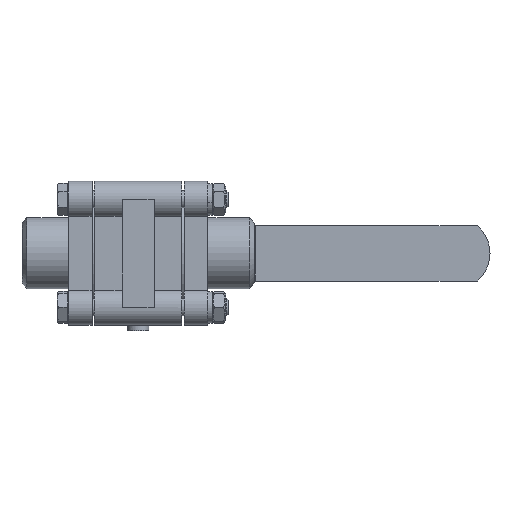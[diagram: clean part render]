
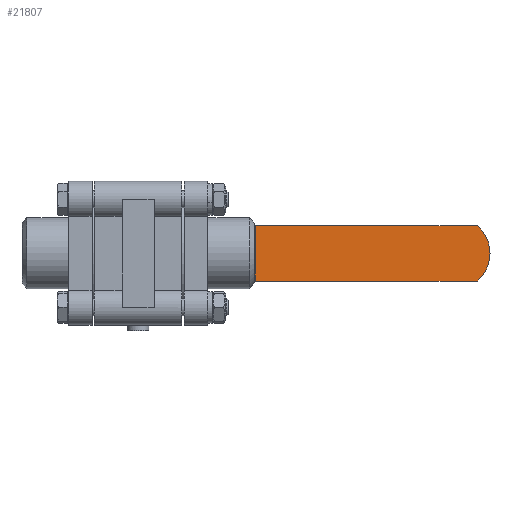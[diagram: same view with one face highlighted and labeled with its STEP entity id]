
A CAD part, front view. The second image highlights one B-rep face of the part: STEP entity #21807.
In plain terms, the highlighted planar face has unit normal (0, -1, 0).
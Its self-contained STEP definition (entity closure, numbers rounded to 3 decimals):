
#1164=PLANE('',#23147);
#3073=FACE_OUTER_BOUND('',#4273,.T.);
#4273=EDGE_LOOP('',(#15924,#15925,#15926,#15927));
#5573=CIRCLE('',#23145,17.);
#6474=LINE('',#30952,#8316);
#6476=LINE('',#30956,#8318);
#6477=LINE('',#30957,#8319);
#8316=VECTOR('',#25477,10.);
#8318=VECTOR('',#25481,10.);
#8319=VECTOR('',#25482,10.);
#10196=VERTEX_POINT('',#30945);
#10197=VERTEX_POINT('',#30946);
#10198=VERTEX_POINT('',#30951);
#10199=VERTEX_POINT('',#30955);
#12406=EDGE_CURVE('',#10196,#10197,#5573,.T.);
#12409=EDGE_CURVE('',#10198,#10196,#6474,.T.);
#12411=EDGE_CURVE('',#10199,#10197,#6476,.T.);
#12412=EDGE_CURVE('',#10198,#10199,#6477,.T.);
#15924=ORIENTED_EDGE('',*,*,#12406,.T.);
#15925=ORIENTED_EDGE('',*,*,#12411,.F.);
#15926=ORIENTED_EDGE('',*,*,#12412,.F.);
#15927=ORIENTED_EDGE('',*,*,#12409,.T.);
#21807=ADVANCED_FACE('',(#3073),#1164,.T.);
#23145=AXIS2_PLACEMENT_3D('',#30947,#25471,#25472);
#23147=AXIS2_PLACEMENT_3D('',#30954,#25479,#25480);
#25471=DIRECTION('center_axis',(0.,-1.,0.));
#25472=DIRECTION('ref_axis',(0.644,0.,0.765));
#25477=DIRECTION('',(1.,0.,0.));
#25479=DIRECTION('center_axis',(0.,-1.,0.));
#25480=DIRECTION('ref_axis',(0.,0.,
-1.));
#25481=DIRECTION('',(1.,0.,0.));
#25482=DIRECTION('',(0.,0.,1.));
#30945=CARTESIAN_POINT('',(104.253,233.552,-41.552));
#30946=CARTESIAN_POINT('',(104.253,233.552,-15.552));
#30947=CARTESIAN_POINT('Origin',(93.299,233.552,-28.552));
#30951=CARTESIAN_POINT('',(0.299,233.552,-41.552));
#30952=CARTESIAN_POINT('',(0.299,233.552,-41.552));
#30954=CARTESIAN_POINT('Origin',(0.299,233.552,-15.552));
#30955=CARTESIAN_POINT('',(0.299,233.552,-15.552));
#30956=CARTESIAN_POINT('',(0.299,233.552,-15.552));
#30957=CARTESIAN_POINT('',(0.299,233.552,-41.552));
